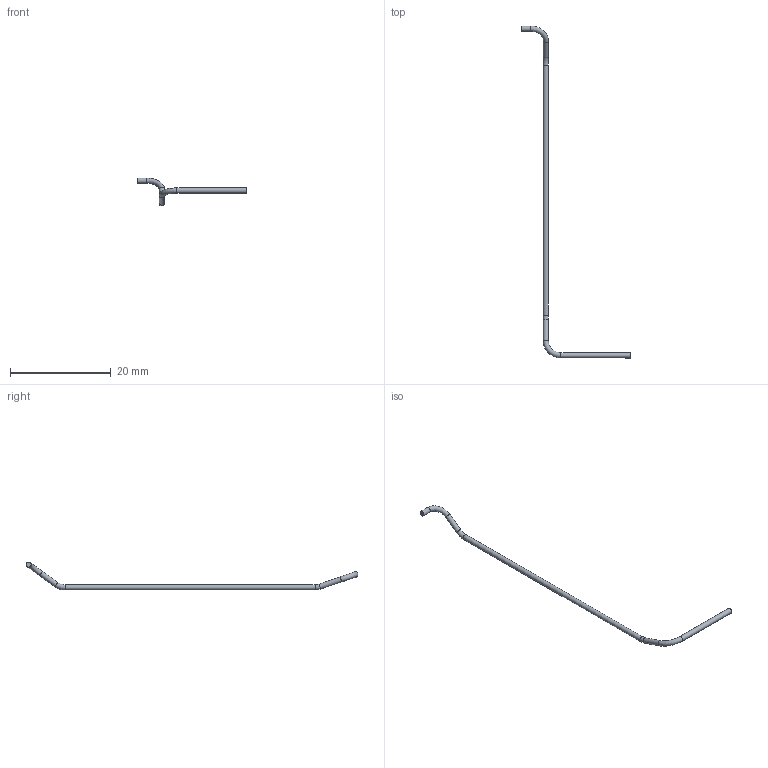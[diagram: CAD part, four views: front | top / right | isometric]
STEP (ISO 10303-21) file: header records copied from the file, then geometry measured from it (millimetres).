
FILE_DESCRIPTION(('Open CASCADE Model'),'2;1');
FILE_NAME('Open CASCADE Shape Model','2026-09-15T14:46:20',('Author'),( 'Open CASCADE'),'Open CASCADE STEP processor 7.7','Open CASCADE 7.7' ,'Unknown');
FILE_SCHEMA(('AUTOMOTIVE_DESIGN { 1 0 10303 214 1 1 1 1 }'));
Length unit declared in the file: millimetre
Products named in the file (1): J9_COMMON_LINK_3_OD1p05_R3
Bounding box: 21.55 x 65.8 x 5.55 mm (x, y, z)
Volume: 74.1 mm3; surface area: 283.9 mm2
Topology: 1 solids, 1 shells, 11 faces, 19 edges, 10 vertices
Faces by surface type: cylinder 5, torus 4, plane 2
Full cylindrical faces by diameter (mm): 1.05 x5
Entity records: 503 total; most frequent: CARTESIAN_POINT 96, DIRECTION 78, ORIENTED_EDGE 38, PCURVE 38, DEFINITIONAL_REPRESENTATION 38, AXIS2_PLACEMENT_3D 26, LINE 24, VECTOR 24
